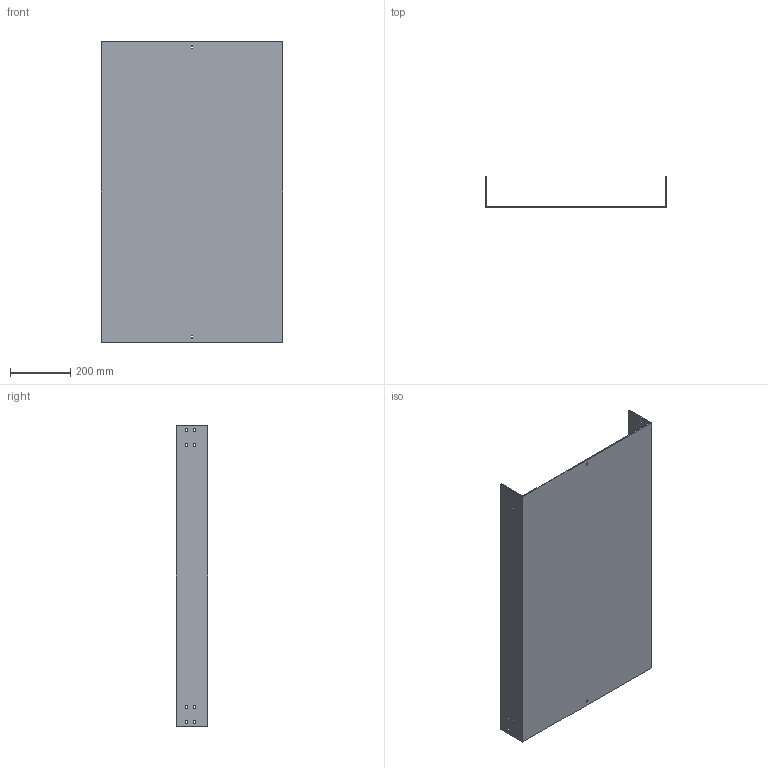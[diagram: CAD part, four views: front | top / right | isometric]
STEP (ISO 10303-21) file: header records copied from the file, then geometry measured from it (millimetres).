
FILE_DESCRIPTION (( 'STEP AP214' ), '1' );
FILE_NAME ('03F1D600.step', '2025-02-21T13:15:41', ( '' ), ( '' ), 'SwSTEP 2.0', 'SolidWorks 2023', '' );
FILE_SCHEMA (( 'AUTOMOTIVE_DESIGN' ));
Length unit declared in the file: millimetre
Products named in the file (1): 03F1D600
Bounding box: 604 x 104 x 1000 mm (x, y, z)
Volume: 2813170.5 mm3; surface area: 1622282 mm2
Topology: 1 solids, 1 shells, 82 faces, 240 edges, 160 vertices
Faces by surface type: plane 82
Entity records: 2759 total; most frequent: CARTESIAN_POINT 483, ORIENTED_EDGE 480, DIRECTION 406, EDGE_CURVE 240, LINE 240, VECTOR 240, VERTEX_POINT 160, EDGE_LOOP 118
